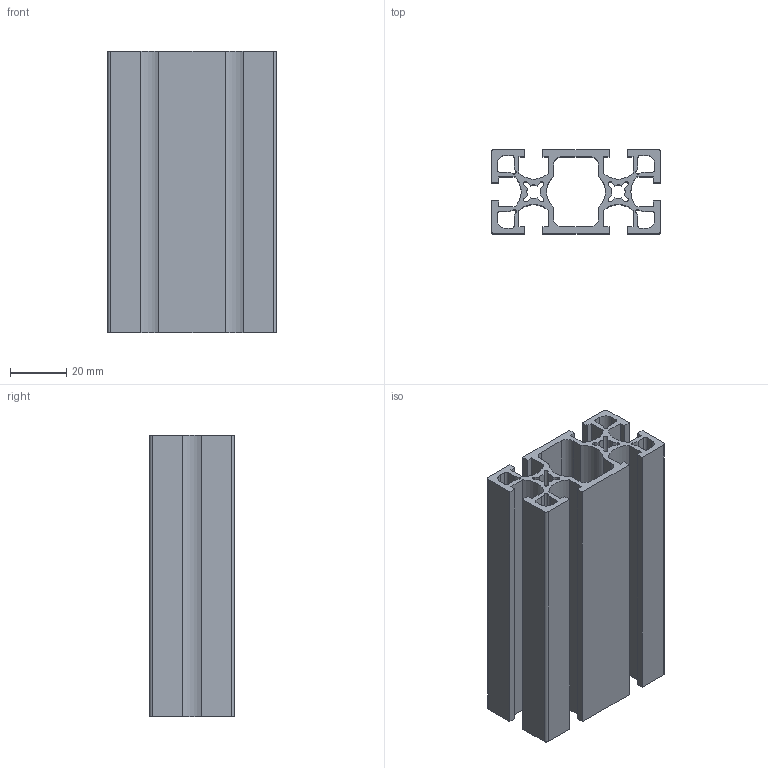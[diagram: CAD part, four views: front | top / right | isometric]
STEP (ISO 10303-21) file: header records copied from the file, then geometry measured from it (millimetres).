
FILE_DESCRIPTION (( 'STEP AP203' ), '1' );
FILE_NAME ('Al3060-6-.STEP', '2024-02-17T06:39:19', ( '' ), ( '' ), 'SwSTEP 2.0', 'SolidWorks 2022', '' );
FILE_SCHEMA (( 'CONFIG_CONTROL_DESIGN' ));
Length unit declared in the file: millimetre
Products named in the file (1): Al3060-6-
Bounding box: 60 x 30 x 100 mm (x, y, z)
Volume: 60257.1 mm3; surface area: 58288.4 mm2
Topology: 1 solids, 1 shells, 160 faces, 474 edges, 316 vertices
Faces by surface type: plane 86, cylinder 74
Entity records: 5491 total; most frequent: CARTESIAN_POINT 951, ORIENTED_EDGE 948, DIRECTION 944, EDGE_CURVE 474, LINE 326, VECTOR 326, VERTEX_POINT 316, AXIS2_PLACEMENT_3D 309
